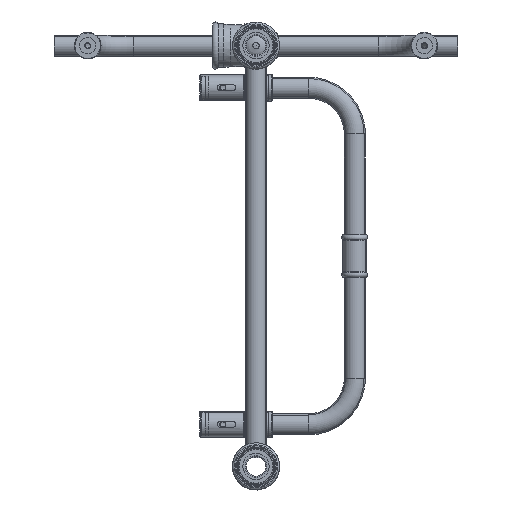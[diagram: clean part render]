
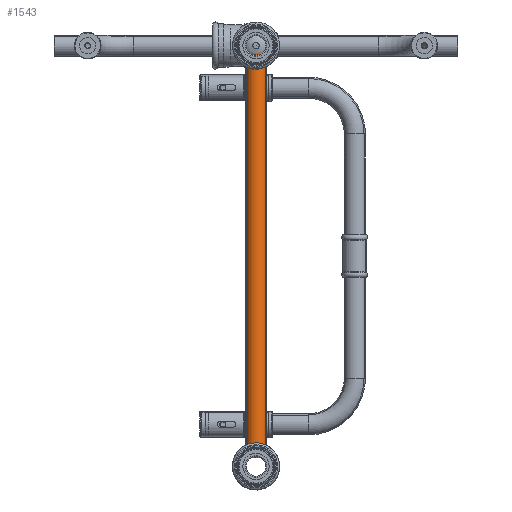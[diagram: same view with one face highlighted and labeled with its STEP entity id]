
A CAD part, front view. The second image highlights one B-rep face of the part: STEP entity #1543.
In plain terms, the highlighted cylindrical face has radius 10 mm (diameter 20 mm), a full revolution.
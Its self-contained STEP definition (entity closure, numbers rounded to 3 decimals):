
#1543 = ADVANCED_FACE( '', ( #3249, #3250 ), #3251, .T. );
#3249 = FACE_OUTER_BOUND( '', #5588, .T. );
#3250 = FACE_OUTER_BOUND( '', #5589, .T. );
#3251 = CYLINDRICAL_SURFACE( '', #5590, 10. );
#5588 = EDGE_LOOP( '', ( #8288 ) );
#5589 = EDGE_LOOP( '', ( #8289 ) );
#5590 = AXIS2_PLACEMENT_3D( '', #8290, #8291, #8292 );
#8288 = ORIENTED_EDGE( '', *, *, #10359, .T. );
#8289 = ORIENTED_EDGE( '', *, *, #10180, .F. );
#8290 = CARTESIAN_POINT( '', ( 192., 0., 0. ) );
#8291 = DIRECTION( '', ( 1., 0., 0. ) );
#8292 = DIRECTION( '', ( 0., 0., 1. ) );
#10180 = EDGE_CURVE( '', #11479, #11479, #11480, .T. );
#10359 = EDGE_CURVE( '', #11757, #11757, #11758, .T. );
#11479 = VERTEX_POINT( '', #20271 );
#11480 = CIRCLE( '', #20272, 10. );
#11757 = VERTEX_POINT( '', #21508 );
#11758 = CIRCLE( '', #21509, 10. );
#20271 = CARTESIAN_POINT( '', ( -192., 10., 0. ) );
#20272 = AXIS2_PLACEMENT_3D( '', #27496, #27497, #27498 );
#21508 = CARTESIAN_POINT( '', ( 192., 10., 0. ) );
#21509 = AXIS2_PLACEMENT_3D( '', #27755, #27756, #27757 );
#27496 = CARTESIAN_POINT( '', ( -192., 0., 0. ) );
#27497 = DIRECTION( '', ( -1., 0., 0. ) );
#27498 = DIRECTION( '', ( 0., 1., 0. ) );
#27755 = CARTESIAN_POINT( '', ( 192., 0., 0. ) );
#27756 = DIRECTION( '', ( -1., 0., 0. ) );
#27757 = DIRECTION( '', ( 0., 1., 0. ) );
